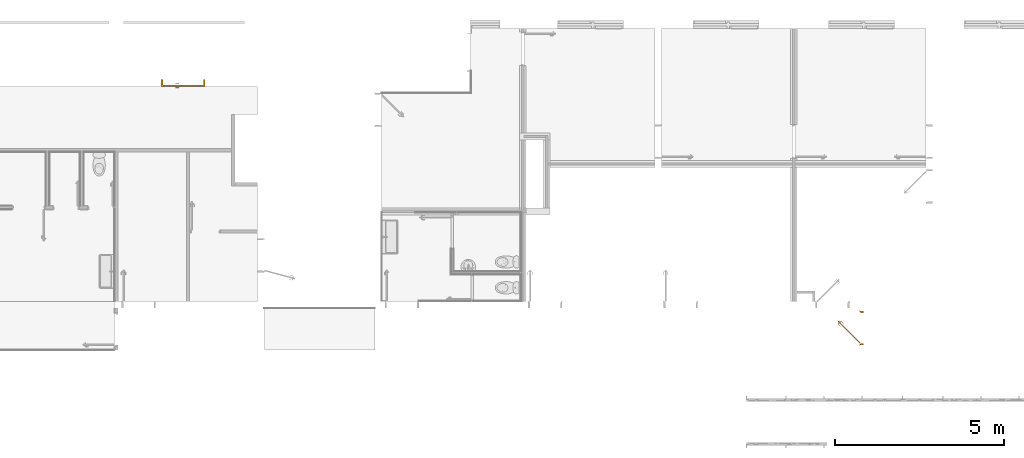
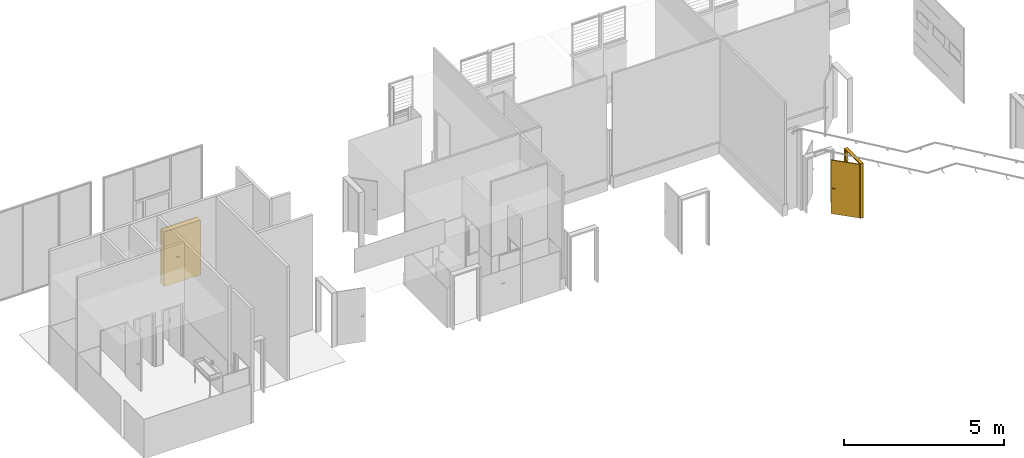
# One storey, part 15 of 18: 2 doors.
"""IFC2X3 building model written with IfcOpenShell, lengths in metres."""

from ifc_helpers import new_model, entity, si_unit, converted_unit, derived_unit, direction, frame, origin, place, context, subcontext, project, spatial, faceted_brep, source, transform, mapped, material, material_list, type_object, type_shapes, element, save


model = new_model("IFC2X3")

# Units and contexts
model_context = context("Model", 3, precision=1e-05, world=origin(), true_north=direction((6.12303176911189e-17, 1.0)))
body_context = subcontext(model_context, "Body", "Model", "MODEL_VIEW")
ifc_project = project(units=[si_unit("LENGTHUNIT", "METRE"), si_unit("AREAUNIT", "SQUARE_METRE"), si_unit("VOLUMEUNIT", "CUBIC_METRE"), converted_unit("PLANEANGLEUNIT", "DEGREE", entity("IfcRatioMeasure", 0.0174532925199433), si_unit("PLANEANGLEUNIT", "RADIAN"), dimensions=[0, 0, 0, 0, 0, 0, 0]), si_unit("MASSUNIT", "GRAM", prefix="KILO"), derived_unit("MASSDENSITYUNIT", [(si_unit("MASSUNIT", "GRAM", prefix="KILO"), 1), (si_unit("LENGTHUNIT", "METRE"), -3)]), si_unit("TIMEUNIT", "SECOND"), si_unit("FREQUENCYUNIT", "HERTZ"), si_unit("THERMODYNAMICTEMPERATUREUNIT", "DEGREE_CELSIUS"), derived_unit("THERMALTRANSMITTANCEUNIT", [(si_unit("MASSUNIT", "GRAM", prefix="KILO"), 1), (si_unit("THERMODYNAMICTEMPERATUREUNIT", "KELVIN"), -1), (si_unit("TIMEUNIT", "SECOND"), -3)]), derived_unit("VOLUMETRICFLOWRATEUNIT", [(si_unit("LENGTHUNIT", "METRE"), 3), (si_unit("TIMEUNIT", "SECOND"), -1)]), si_unit("ELECTRICCURRENTUNIT", "AMPERE"), si_unit("ELECTRICVOLTAGEUNIT", "VOLT"), si_unit("POWERUNIT", "WATT"), si_unit("FORCEUNIT", "NEWTON", prefix="KILO"), si_unit("ILLUMINANCEUNIT", "LUX"), si_unit("LUMINOUSFLUXUNIT", "LUMEN"), si_unit("LUMINOUSINTENSITYUNIT", "CANDELA"), derived_unit("USERDEFINED", [(si_unit("MASSUNIT", "GRAM", prefix="KILO"), -1), (si_unit("LENGTHUNIT", "METRE"), -2), (si_unit("TIMEUNIT", "SECOND"), 3), (si_unit("LUMINOUSFLUXUNIT", "LUMEN"), 1)]), derived_unit("LINEARVELOCITYUNIT", [(si_unit("LENGTHUNIT", "METRE"), 1), (si_unit("TIMEUNIT", "SECOND"), -1)]), si_unit("PRESSUREUNIT", "PASCAL"), derived_unit("USERDEFINED", [(si_unit("LENGTHUNIT", "METRE"), -2), (si_unit("MASSUNIT", "GRAM", prefix="KILO"), 1), (si_unit("TIMEUNIT", "SECOND"), -2)])], contexts=[model_context])

# Site, building, storey
site_placement = place(None, origin())
site = spatial("IfcSite", under=ifc_project, at=site_placement, Name="Surface", CompositionType="ELEMENT")
building_placement = place(site_placement, origin())
building = spatial("IfcBuilding", under=site, at=building_placement, Name="ExPREF", CompositionType="ELEMENT")
storey_placement = place(building_placement, frame((0.0, 0.0, -4.62)))
storey = spatial("IfcBuildingStorey", under=building, at=storey_placement, Name="R-1", CompositionType="ELEMENT", Elevation=-4.62)

# Doors
ifc_material_1 = material(Name="Finition Peinture - Blanc satiné")
ifc_material_2 = material(Name="AA-Aluminium")
ifc_material_list_1 = material_list([ifc_material_1, ifc_material_2])
ifc_material_list_2 = material_list([ifc_material_1, ifc_material_2])
door_style_1 = type_object("IfcDoorStyle", Name="PP (1.23m x 2.04m) métal", ConstructionType="NOTDEFINED", OperationType="DOUBLE_DOOR_SINGLE_SWING", ParameterTakesPrecedence=False, Sizeable=False, material=ifc_material_list_2)
shared_shape_1 = source(origin(), body_context, "Body", "Brep", [
    faceted_brep([(0.505352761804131, -0.00500000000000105, 0.866003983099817), (0.51500000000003, -0.00500000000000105, 0.870000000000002), (0.515000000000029, -0.00500000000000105, 1.08), (0.505352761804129, -0.00500000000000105, 1.08399601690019), (0.495000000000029, -0.00500000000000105, 1.08535898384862), (0.484647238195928, -0.00500000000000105, 1.08399601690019), (0.475000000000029, -0.00500000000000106, 1.08), (0.47500000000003, -0.00500000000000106, 0.870000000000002), (0.484647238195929, -0.00500000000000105, 0.866003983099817), (0.49500000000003, -0.00500000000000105, 0.86464101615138), (0.505352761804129, 0.0, 1.08399601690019), (0.515000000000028, 0.0, 1.08), (0.51500000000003, 0.0, 0.870000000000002), (0.505352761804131, 0.0, 0.866003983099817), (0.49500000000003, 0.0, 0.86464101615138), (0.484647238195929, 0.0, 0.866003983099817), (0.475000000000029, 0.0, 0.870000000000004), (0.475000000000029, 0.0, 1.08), (0.484647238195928, 0.0, 1.08399601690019), (0.495000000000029, 0.0, 1.08535898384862)], [[[0, 1, 2, 3, 4, 5, 6, 7, 8, 9]], [[10, 11, 12, 13, 14, 15, 16, 17, 18, 19]], [[16, 15, 8, 7]], [[8, 15, 14, 9]], [[14, 13, 0, 9]], [[13, 12, 1, 0]], [[2, 1, 12, 11]], [[11, 10, 3, 2]], [[3, 10, 19, 4]], [[19, 18, 5, 4]], [[18, 17, 6, 5]], [[7, 6, 17, 16]]]),
    faceted_brep([(0.505352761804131, 0.0399999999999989, 0.866003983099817), (0.51500000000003, 0.0399999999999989, 0.870000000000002), (0.515000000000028, 0.0399999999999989, 1.08), (0.505352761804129, 0.0399999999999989, 1.08399601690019), (0.495000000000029, 0.0399999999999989, 1.08535898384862), (0.484647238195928, 0.0399999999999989, 1.08399601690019), (0.475000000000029, 0.0399999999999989, 1.08), (0.47500000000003, 0.0399999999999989, 0.870000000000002), (0.484647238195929, 0.0399999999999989, 0.866003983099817), (0.49500000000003, 0.0399999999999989, 0.86464101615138), (0.505352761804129, 0.0449999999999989, 1.08399601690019), (0.515000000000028, 0.0449999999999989, 1.08), (0.51500000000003, 0.0449999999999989, 0.870000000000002), (0.505352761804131, 0.0449999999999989, 0.866003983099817), (0.49500000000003, 0.0449999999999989, 0.86464101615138), (0.484647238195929, 0.0449999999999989, 0.866003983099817), (0.475000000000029, 0.0449999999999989, 0.870000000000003), (0.475000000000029, 0.0449999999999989, 1.08), (0.484647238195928, 0.0449999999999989, 1.08399601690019), (0.495000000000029, 0.0449999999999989, 1.08535898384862)], [[[0, 1, 2, 3, 4, 5, 6, 7, 8, 9]], [[10, 11, 12, 13, 14, 15, 16, 17, 18, 19]], [[11, 10, 3, 2]], [[3, 10, 19, 4]], [[19, 18, 5, 4]], [[18, 17, 6, 5]], [[7, 6, 17, 16]], [[16, 15, 8, 7]], [[8, 15, 14, 9]], [[14, 13, 0, 9]], [[13, 12, 1, 0]], [[2, 1, 12, 11]]]),
    faceted_brep([(0.492974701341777, -0.00500000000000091, 1.00778044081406), (0.497025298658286, -0.00500000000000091, 1.00778044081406), (0.501000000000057, -0.00500000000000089, 1.00699999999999), (0.501000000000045, -0.00500000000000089, 0.993000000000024), (0.497025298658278, -0.00500000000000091, 0.992219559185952), (0.492974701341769, -0.00500000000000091, 0.99221955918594), (0.489000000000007, -0.00500000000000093, 0.992999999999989), (0.489000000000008, -0.00500000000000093, 1.007), (0.489000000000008, -0.0326509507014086, 1.007), (0.492974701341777, -0.0310045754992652, 1.00778044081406), (0.50902358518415, -0.0470534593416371, 1.00778044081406), (0.51070139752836, -0.0430028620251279, 1.00778044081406), (0.497025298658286, -0.0293267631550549, 1.00778044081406), (0.501000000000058, -0.0276803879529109, 1.007), (0.501000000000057, -0.0276803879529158, 0.993000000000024), (0.497025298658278, -0.0293267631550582, 0.992219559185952), (0.510701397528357, -0.0430028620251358, 0.992219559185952), (0.509023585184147, -0.0470534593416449, 0.99221955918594), (0.492974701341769, -0.0310045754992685, 0.99221955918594), (0.489000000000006, -0.0326509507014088, 0.992999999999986), (0.507377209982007, -0.0510281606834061, 1.007), (0.512347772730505, -0.0390281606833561, 1.007), (0.512347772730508, -0.0390281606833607, 0.993000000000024), (0.507377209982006, -0.0510281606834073, 0.992999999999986), (0.595018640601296, -0.051028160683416, 0.992999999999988), (0.595018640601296, -0.0470534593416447, 0.99221955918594), (0.595018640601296, -0.0430028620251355, 0.992219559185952), (0.595018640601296, -0.0390281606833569, 0.993000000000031), (0.595018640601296, -0.0390281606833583, 1.007), (0.595018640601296, -0.0430028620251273, 1.00778044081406), (0.595018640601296, -0.0470534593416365, 1.00778044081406), (0.595018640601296, -0.0510281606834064, 1.00699999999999), (0.547307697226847, -0.0510281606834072, 1.007), (0.552860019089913, -0.045028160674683, 1.0078786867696), (0.5536832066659, -0.039028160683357, 1.007), (0.553683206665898, -0.0390281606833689, 0.993000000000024), (0.552860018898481, -0.0450281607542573, 0.992121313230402), (0.547307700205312, -0.0510281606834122, 0.992999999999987)], [[[0, 1, 2, 3, 4, 5, 6, 7]], [[8, 9, 0, 7]], [[9, 10, 11, 12, 1, 0]], [[12, 13, 2, 1]], [[3, 2, 13, 14]], [[14, 15, 4, 3]], [[15, 16, 17, 18, 5, 4]], [[18, 19, 6, 5]], [[7, 6, 19, 8]], [[20, 10, 9, 8]], [[11, 21, 13, 12]], [[14, 13, 21, 22]], [[22, 16, 15, 14]], [[17, 23, 19, 18]], [[8, 19, 23, 20]], [[24, 25, 26, 27, 28, 29, 30, 31]], [[32, 30, 33]], [[31, 30, 32]], [[10, 20, 32]], [[33, 34, 11]], [[21, 11, 34]], [[34, 29, 28]], [[30, 29, 33]], [[29, 34, 33]], [[10, 32, 33]], [[10, 33, 11]], [[22, 21, 34, 28, 27, 35]], [[35, 26, 36]], [[37, 36, 25]], [[22, 35, 16]], [[35, 27, 26]], [[24, 37, 25]], [[23, 17, 37]], [[37, 17, 36]], [[17, 16, 36]], [[16, 35, 36]], [[25, 36, 26]], [[20, 23, 37, 24, 31, 32]]]),
    faceted_brep([(0.49297470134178, 0.0449999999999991, 1.00778044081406), (0.48900000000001, 0.044999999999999, 1.007), (0.489, 0.044999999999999, 0.992999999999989), (0.492974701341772, 0.0449999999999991, 0.99221955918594), (0.497025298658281, 0.0449999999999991, 0.992219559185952), (0.50100000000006, 0.0449999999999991, 0.993000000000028), (0.501000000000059, 0.0449999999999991, 1.007), (0.49702529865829, 0.0449999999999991, 1.00778044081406), (0.50100000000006, 0.067485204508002, 0.993000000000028), (0.50100000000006, 0.0674852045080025, 1.007), (0.49702529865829, 0.0691315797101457, 1.00778044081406), (0.510838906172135, 0.0829451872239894, 1.00778044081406), (0.509161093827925, 0.0869957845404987, 1.00778044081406), (0.492974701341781, 0.070809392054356, 1.00778044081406), (0.48900000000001, 0.0724557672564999, 1.007), (0.48900000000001, 0.072455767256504, 0.992999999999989), (0.492974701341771, 0.0708093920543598, 0.99221955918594), (0.509161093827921, 0.0869957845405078, 0.99221955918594), (0.510838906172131, 0.0829451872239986, 0.992219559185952), (0.497025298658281, 0.0691315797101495, 0.992219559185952), (0.512485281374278, 0.0789704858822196, 0.993000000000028), (0.512485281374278, 0.0789704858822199, 1.007), (0.507514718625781, 0.0909704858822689, 1.007), (0.507514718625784, 0.090970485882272, 0.992999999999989), (0.595045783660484, 0.0789704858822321, 0.993000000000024), (0.595045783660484, 0.0829451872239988, 0.992219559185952), (0.595045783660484, 0.086995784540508, 0.99221955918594), (0.595045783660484, 0.0909704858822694, 0.992999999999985), (0.595045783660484, 0.0909704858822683, 1.007), (0.595045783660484, 0.0869957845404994, 1.00778044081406), (0.595045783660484, 0.0829451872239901, 1.00778044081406), (0.595045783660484, 0.0789704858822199, 1.007), (0.553765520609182, 0.0789704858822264, 0.993000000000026), (0.553765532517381, 0.0789704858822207, 1.007), (0.552942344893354, 0.0849704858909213, 1.0078786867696), (0.547445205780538, 0.0909704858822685, 1.007), (0.547445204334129, 0.0909704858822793, 0.992999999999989), (0.552942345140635, 0.0849704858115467, 0.992121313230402)], [[[0, 1, 2, 3, 4, 5, 6, 7]], [[6, 5, 8, 9]], [[9, 10, 7, 6]], [[10, 11, 12, 13, 0, 7]], [[13, 14, 1, 0]], [[2, 1, 14, 15]], [[15, 16, 3, 2]], [[16, 17, 18, 19, 4, 3]], [[19, 8, 5, 4]], [[9, 8, 20, 21]], [[21, 11, 10, 9]], [[12, 22, 14, 13]], [[15, 14, 22, 23]], [[23, 17, 16, 15]], [[18, 20, 8, 19]], [[24, 25, 26, 27, 28, 29, 30, 31]], [[21, 20, 32, 24, 31, 33]], [[33, 30, 34]], [[35, 34, 29]], [[21, 33, 11]], [[33, 31, 30]], [[28, 35, 29]], [[22, 12, 35]], [[35, 12, 34]], [[12, 11, 34]], [[11, 33, 34]], [[29, 34, 30]], [[22, 35, 28, 27, 36, 23]], [[36, 26, 37]], [[27, 26, 36]], [[17, 23, 36]], [[37, 32, 18]], [[20, 18, 32]], [[32, 25, 24]], [[26, 25, 37]], [[25, 32, 37]], [[17, 36, 37]], [[17, 37, 18]]]),
    faceted_brep([(0.435000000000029, 0.04, 2.04), (1.33500000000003, 0.04, 2.04), (1.33500000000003, 0.04, 0.0), (0.435000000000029, 0.04, 0.0), (0.435000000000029, 0.0, 2.04), (0.435000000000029, 0.0, 0.0), (1.33500000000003, 0.0, 0.0), (1.33500000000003, 0.0, 2.04)], [[[0, 1, 2, 3]], [[4, 5, 6, 7]], [[1, 0, 4, 7]], [[2, 1, 7, 6]], [[3, 2, 6, 5]], [[0, 3, 5, 4]]]),
    faceted_brep([(1.37000000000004, 0.0, 0.0), (1.33500000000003, 0.0, 0.0), (1.33500000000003, 0.040000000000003, 0.0), (1.32000000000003, 0.040000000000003, 0.0), (1.32000000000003, 0.200000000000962, 0.0), (1.37000000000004, 0.200000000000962, 0.0), (1.37000000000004, 0.200000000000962, 2.07500000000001), (1.37000000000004, 0.0, 2.07500000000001), (1.32000000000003, 0.200000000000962, 2.02499999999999), (0.120000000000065, 0.200000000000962, 2.02499999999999), (0.120000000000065, 0.200000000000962, 0.0), (0.0700000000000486, 0.200000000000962, 0.0), (0.0700000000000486, 0.200000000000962, 2.07500000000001), (1.32000000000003, 0.040000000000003, 2.02499999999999), (1.33500000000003, 0.040000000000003, 2.04), (0.105000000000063, 0.040000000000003, 2.04), (0.105000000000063, 0.040000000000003, 0.0), (0.120000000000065, 0.040000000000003, 0.0), (0.120000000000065, 0.040000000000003, 2.02499999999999), (1.33500000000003, 0.0, 2.04), (0.0700000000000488, 0.0, 2.07500000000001), (0.0700000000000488, 0.0, 0.0), (0.105000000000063, 0.0, 0.0), (0.105000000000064, 0.0, 2.04)], [[[0, 1, 2, 3, 4, 5]], [[5, 6, 7, 0]], [[4, 8, 9, 10, 11, 12, 6, 5]], [[3, 13, 8, 4]], [[2, 14, 15, 16, 17, 18, 13, 3]], [[1, 19, 14, 2]], [[0, 7, 20, 21, 22, 23, 19, 1]], [[12, 11, 21, 20]], [[21, 11, 10, 17, 16, 22]], [[18, 17, 10, 9]], [[23, 22, 16, 15]], [[6, 12, 20, 7]], [[13, 18, 9, 8]], [[19, 23, 15, 14]]]),
    faceted_brep([(0.10500000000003, 0.0, 2.04), (0.435000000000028, 0.0, 2.04), (0.435000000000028, 0.0400000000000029, 2.04), (0.10500000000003, 0.0400000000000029, 2.04), (0.10500000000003, 0.0, 0.0), (0.10500000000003, 0.0400000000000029, 0.0), (0.435000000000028, 0.0400000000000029, 0.0), (0.435000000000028, 0.0, 0.0)], [[[0, 1, 2, 3]], [[4, 5, 6, 7]], [[3, 5, 4, 0]], [[2, 6, 5, 3]], [[1, 7, 6, 2]], [[0, 4, 7, 1]]]),
    faceted_brep([(1.35500000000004, 0.200000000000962, 0.0), (1.35500000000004, 0.205000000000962, 0.0), (1.38500000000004, 0.205000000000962, 0.0), (1.38500000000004, 0.200000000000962, 0.0), (1.38500000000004, 0.200000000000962, 2.09000000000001), (0.0550000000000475, 0.200000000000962, 2.09000000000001), (0.0550000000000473, 0.200000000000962, 0.0), (0.0850000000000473, 0.200000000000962, 0.0), (0.0850000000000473, 0.200000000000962, 2.06000000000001), (1.35500000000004, 0.200000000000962, 2.06000000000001), (1.38500000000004, 0.205000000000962, 2.09000000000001), (1.35500000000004, 0.205000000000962, 2.06000000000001), (0.0850000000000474, 0.205000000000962, 2.06000000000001), (0.0850000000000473, 0.205000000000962, 0.0), (0.0550000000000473, 0.205000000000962, 0.0), (0.0550000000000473, 0.205000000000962, 2.09000000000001)], [[[0, 1, 2, 3]], [[3, 4, 5, 6, 7, 8, 9, 0]], [[2, 10, 4, 3]], [[1, 11, 12, 13, 14, 15, 10, 2]], [[0, 9, 11, 1]], [[7, 6, 14, 13]], [[8, 7, 13, 12]], [[15, 14, 6, 5]], [[10, 15, 5, 4]], [[9, 8, 12, 11]]]),
    faceted_brep([(1.38500000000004, -0.00500000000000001, 0.0), (1.38500000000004, -0.00500000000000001, 2.09000000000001), (0.0550000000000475, -0.00500000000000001, 2.09000000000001), (0.0550000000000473, -0.00500000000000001, 0.0), (0.0850000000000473, -0.00500000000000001, 0.0), (0.0850000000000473, -0.00500000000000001, 2.06000000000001), (1.35500000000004, -0.00500000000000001, 2.06000000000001), (1.35500000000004, -0.00500000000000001, 0.0), (1.38500000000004, 0.0, 0.0), (1.38500000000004, 0.0, 2.09000000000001), (1.35500000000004, 0.0, 0.0), (1.35500000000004, 0.0, 2.06000000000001), (0.0850000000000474, 0.0, 2.06000000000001), (0.0850000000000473, 0.0, 0.0), (0.0550000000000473, 0.0, 0.0), (0.0550000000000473, 0.0, 2.09000000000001)], [[[0, 1, 2, 3, 4, 5, 6, 7]], [[8, 9, 1, 0]], [[10, 11, 12, 13, 14, 15, 9, 8]], [[7, 6, 11, 10]], [[5, 4, 13, 12]], [[15, 14, 3, 2]], [[9, 15, 2, 1]], [[6, 5, 12, 11]], [[4, 3, 14, 13]], [[7, 10, 8, 0]]]),
])
type_shapes(door_style_1, [shared_shape_1])
door_1_placement = place(storey_placement, frame((38.7412326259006, -186.914488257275, 0.0)))
element("IfcDoor", 1, at=door_1_placement, inside=storey, type_object=door_style_1, material=ifc_material_list_1, Name="Int. Tierce:PP (1.23m x 2.04m) métal", ObjectType="PP (1.23m x 2.04m) métal", OverallHeight=2.09000000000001, OverallWidth=1.33, context=body_context, shape_type="MappedRepresentation", body=[
    mapped(shared_shape_1, transform((0.0, 0.0, 0.0), scale=1.0)),
])
ifc_material_3 = material(Name="AA-Blanc satiné")
ifc_material_list_3 = material_list([ifc_material_3, ifc_material_2])
ifc_material_list_4 = material_list([ifc_material_3, ifc_material_2])
door_style_2 = type_object("IfcDoorStyle", Name="PP (0.93m x 2.04m) métal", ConstructionType="NOTDEFINED", OperationType="SINGLE_SWING_LEFT", ParameterTakesPrecedence=False, Sizeable=False, material=ifc_material_list_4)
shared_shape_2 = source(origin(), body_context, "Body", "Brep", [
    faceted_brep([(0.316565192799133, -0.584795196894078, 1.00778044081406), (0.313754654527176, -0.587605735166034, 1.007), (0.313754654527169, -0.587605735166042, 0.992999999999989), (0.316565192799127, -0.584795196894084, 0.99221955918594), (0.319429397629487, -0.581930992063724, 0.992219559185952), (0.32223993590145, -0.579120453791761, 0.993000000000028), (0.322239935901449, -0.579120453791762, 1.007), (0.319429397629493, -0.581930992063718, 1.00778044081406), (0.306340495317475, -0.563221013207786, 0.993000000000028), (0.306340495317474, -0.563221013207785, 1.007), (0.302365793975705, -0.564867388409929, 1.00778044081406), (0.302365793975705, -0.545331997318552, 1.00778044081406), (0.298315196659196, -0.543654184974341, 1.00778044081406), (0.298315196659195, -0.566545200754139, 1.00778044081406), (0.294340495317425, -0.568191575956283, 1.007), (0.294340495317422, -0.56819157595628, 0.992999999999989), (0.298315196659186, -0.566545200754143, 0.99221955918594), (0.298315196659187, -0.543654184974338, 0.99221955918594), (0.302365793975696, -0.545331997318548, 0.992219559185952), (0.302365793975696, -0.564867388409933, 0.992219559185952), (0.306340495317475, -0.546978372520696, 0.993000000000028), (0.306340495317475, -0.546978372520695, 1.007), (0.294340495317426, -0.542007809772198, 1.007), (0.294340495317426, -0.542007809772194, 0.992999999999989), (0.36471958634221, -0.488599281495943, 0.993000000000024), (0.361909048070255, -0.485788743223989, 0.992219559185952), (0.359044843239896, -0.482924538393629, 0.99221955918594), (0.356234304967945, -0.480114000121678, 0.992999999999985), (0.356234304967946, -0.480114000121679, 1.007), (0.359044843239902, -0.482924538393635, 1.00778044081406), (0.361909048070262, -0.485788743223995, 1.00778044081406), (0.364719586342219, -0.488599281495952, 1.007), (0.335530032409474, -0.517788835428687, 0.993000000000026), (0.335530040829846, -0.517788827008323, 1.007), (0.330705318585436, -0.51412826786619, 1.0078786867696), (0.322575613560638, -0.513772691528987, 1.007), (0.322575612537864, -0.513772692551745, 0.992999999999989), (0.330705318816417, -0.514128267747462, 0.992121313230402)], [[[0, 1, 2, 3, 4, 5, 6, 7]], [[6, 5, 8, 9]], [[9, 10, 7, 6]], [[10, 11, 12, 13, 0, 7]], [[13, 14, 1, 0]], [[2, 1, 14, 15]], [[15, 16, 3, 2]], [[16, 17, 18, 19, 4, 3]], [[19, 8, 5, 4]], [[9, 8, 20, 21]], [[21, 11, 10, 9]], [[12, 22, 14, 13]], [[15, 14, 22, 23]], [[23, 17, 16, 15]], [[18, 20, 8, 19]], [[24, 25, 26, 27, 28, 29, 30, 31]], [[21, 20, 32, 24, 31, 33]], [[33, 30, 34]], [[35, 34, 29]], [[21, 33, 11]], [[33, 31, 30]], [[28, 35, 29]], [[22, 12, 35]], [[35, 12, 34]], [[12, 11, 34]], [[11, 33, 34]], [[29, 34, 30]], [[22, 35, 28, 27, 36, 23]], [[36, 26, 37]], [[27, 26, 36]], [[17, 23, 36]], [[37, 32, 18]], [[20, 18, 32]], [[32, 25, 24]], [[26, 25, 37]], [[25, 32, 37]], [[17, 36, 37]], [[17, 37, 18]]]),
    faceted_brep([(0.351920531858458, -0.620150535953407, 1.00778044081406), (0.354784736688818, -0.617286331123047, 1.00778044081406), (0.357595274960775, -0.61447579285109, 1.00699999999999), (0.357595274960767, -0.614475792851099, 0.993000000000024), (0.354784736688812, -0.617286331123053, 0.992219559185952), (0.351920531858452, -0.620150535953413, 0.99221955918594), (0.349109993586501, -0.622961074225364, 0.992999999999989), (0.349109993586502, -0.622961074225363, 1.007), (0.368662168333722, -0.642513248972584, 1.007), (0.370308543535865, -0.638538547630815, 1.00778044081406), (0.393005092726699, -0.638538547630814, 1.00778044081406), (0.391327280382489, -0.634487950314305, 1.00778044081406), (0.371986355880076, -0.634487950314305, 1.00778044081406), (0.373632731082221, -0.630513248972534, 1.007), (0.373632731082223, -0.630513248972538, 0.993000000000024), (0.371986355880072, -0.634487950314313, 0.992219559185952), (0.391327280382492, -0.634487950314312, 0.992219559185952), (0.393005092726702, -0.638538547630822, 0.99221955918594), (0.370308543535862, -0.638538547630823, 0.99221955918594), (0.368662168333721, -0.642513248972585, 0.992999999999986), (0.394651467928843, -0.642513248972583, 1.007), (0.389680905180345, -0.630513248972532, 1.007), (0.38968090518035, -0.630513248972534, 0.993000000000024), (0.394651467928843, -0.642513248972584, 0.992999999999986), (0.456623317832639, -0.5805413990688, 0.992999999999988), (0.453812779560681, -0.577730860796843, 0.99221955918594), (0.450948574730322, -0.574866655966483, 0.992219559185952), (0.448138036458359, -0.57205611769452, 0.993000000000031), (0.44813803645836, -0.572056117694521, 1.007), (0.450948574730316, -0.574866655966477, 1.00778044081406), (0.453812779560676, -0.577730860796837, 1.00778044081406), (0.456623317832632, -0.580541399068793, 1.00699999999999), (0.422886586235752, -0.614278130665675, 1.007), (0.422570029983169, -0.606109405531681, 1.0078786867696), (0.418909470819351, -0.601284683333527, 1.007), (0.418909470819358, -0.601284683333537, 0.993000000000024), (0.422570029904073, -0.606109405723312, 0.992121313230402), (0.422886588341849, -0.614278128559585, 0.992999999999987)], [[[0, 1, 2, 3, 4, 5, 6, 7]], [[8, 9, 0, 7]], [[9, 10, 11, 12, 1, 0]], [[12, 13, 2, 1]], [[3, 2, 13, 14]], [[14, 15, 4, 3]], [[15, 16, 17, 18, 5, 4]], [[18, 19, 6, 5]], [[7, 6, 19, 8]], [[20, 10, 9, 8]], [[11, 21, 13, 12]], [[14, 13, 21, 22]], [[22, 16, 15, 14]], [[17, 23, 19, 18]], [[8, 19, 23, 20]], [[24, 25, 26, 27, 28, 29, 30, 31]], [[32, 30, 33]], [[31, 30, 32]], [[10, 20, 32]], [[33, 34, 11]], [[21, 11, 34]], [[34, 29, 28]], [[30, 29, 33]], [[29, 34, 33]], [[10, 32, 33]], [[10, 33, 11]], [[22, 21, 34, 28, 27, 35]], [[35, 26, 36]], [[37, 36, 25]], [[22, 35, 16]], [[35, 27, 26]], [[24, 37, 25]], [[23, 17, 37]], [[37, 17, 36]], [[17, 16, 36]], [[16, 35, 36]], [[25, 36, 26]], [[20, 23, 37, 24, 31, 32]]]),
    faceted_brep([(0.328853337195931, -0.579578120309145, 0.866003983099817), (0.335674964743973, -0.572756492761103, 0.870000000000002), (0.335674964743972, -0.572756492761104, 1.08), (0.32885333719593, -0.579578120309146, 1.08399601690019), (0.321532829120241, -0.586898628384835, 1.08535898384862), (0.314212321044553, -0.594219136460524, 1.08399601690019), (0.307390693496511, -0.601040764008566, 1.08), (0.307390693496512, -0.601040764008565, 0.870000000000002), (0.314212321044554, -0.594219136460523, 0.866003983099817), (0.321532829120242, -0.586898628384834, 0.86464101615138), (0.325317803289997, -0.576042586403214, 1.08399601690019), (0.332139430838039, -0.569220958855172, 1.08), (0.33213943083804, -0.569220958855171, 0.870000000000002), (0.325317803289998, -0.576042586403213, 0.866003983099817), (0.31799729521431, -0.583363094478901, 0.86464101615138), (0.310676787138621, -0.59068360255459, 0.866003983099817), (0.303855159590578, -0.597505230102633, 0.870000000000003), (0.303855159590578, -0.597505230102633, 1.08), (0.31067678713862, -0.590683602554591, 1.08399601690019), (0.317997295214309, -0.583363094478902, 1.08535898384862)], [[[0, 1, 2, 3, 4, 5, 6, 7, 8, 9]], [[10, 11, 12, 13, 14, 15, 16, 17, 18, 19]], [[11, 10, 3, 2]], [[3, 10, 19, 4]], [[19, 18, 5, 4]], [[18, 17, 6, 5]], [[7, 6, 17, 16]], [[16, 15, 8, 7]], [[8, 15, 14, 9]], [[14, 13, 0, 9]], [[13, 12, 1, 0]], [[2, 1, 12, 11]]]),
    faceted_brep([(0.360673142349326, -0.61139792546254, 0.866003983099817), (0.367494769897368, -0.604576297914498, 0.870000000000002), (0.367494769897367, -0.604576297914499, 1.08), (0.360673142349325, -0.611397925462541, 1.08399601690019), (0.353352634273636, -0.61871843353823, 1.08535898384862), (0.346032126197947, -0.626038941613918, 1.08399601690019), (0.339210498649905, -0.63286056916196, 1.08), (0.339210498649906, -0.632860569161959, 0.870000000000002), (0.346032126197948, -0.626038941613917, 0.866003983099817), (0.353352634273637, -0.618718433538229, 0.86464101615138), (0.357137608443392, -0.607862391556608, 1.08399601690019), (0.363959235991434, -0.601040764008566, 1.08), (0.363959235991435, -0.601040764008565, 0.870000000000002), (0.357137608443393, -0.607862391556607, 0.866003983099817), (0.349817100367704, -0.615182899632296, 0.86464101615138), (0.342496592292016, -0.622503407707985, 0.866003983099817), (0.335674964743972, -0.629325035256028, 0.870000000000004), (0.335674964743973, -0.629325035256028, 1.08), (0.342496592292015, -0.622503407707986, 1.08399601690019), (0.349817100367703, -0.615182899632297, 1.08535898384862)], [[[0, 1, 2, 3, 4, 5, 6, 7, 8, 9]], [[10, 11, 12, 13, 14, 15, 16, 17, 18, 19]], [[16, 15, 8, 7]], [[8, 15, 14, 9]], [[14, 13, 0, 9]], [[13, 12, 1, 0]], [[2, 1, 12, 11]], [[11, 10, 3, 2]], [[3, 10, 19, 4]], [[19, 18, 5, 4]], [[18, 17, 6, 5]], [[7, 6, 17, 16]]]),
    faceted_brep([(0.279106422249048, -0.629325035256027, 2.04), (0.936715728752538, 0.0282842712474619, 2.04), (0.936715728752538, 0.0282842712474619, 0.0), (0.279106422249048, -0.629325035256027, 0.0), (0.30739069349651, -0.657609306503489, 2.04), (0.30739069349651, -0.657609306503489, 0.0), (0.965, 0.0, 0.0), (0.965, 0.0, 2.04)], [[[0, 1, 2, 3]], [[4, 5, 6, 7]], [[1, 0, 4, 7]], [[2, 1, 7, 6]], [[3, 2, 6, 5]], [[0, 3, 5, 4]]]),
    faceted_brep([(0.0, 0.0, 0.0), (0.0, 0.100000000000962, 0.0), (0.0499999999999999, 0.100000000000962, 0.0), (0.0499999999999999, 0.040000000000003, 0.0), (0.0349999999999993, 0.040000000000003, 0.0), (0.0349999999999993, 0.0, 0.0), (0.0, 0.0, 2.07500000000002), (0.0, 0.100000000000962, 2.07500000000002), (1.0, 0.100000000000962, 2.07500000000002), (1.0, 0.100000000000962, 0.0), (0.95, 0.100000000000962, 0.0), (0.95, 0.100000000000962, 2.025), (0.0500000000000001, 0.100000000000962, 2.025), (0.05, 0.040000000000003, 2.025), (0.95, 0.040000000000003, 2.025), (0.95, 0.040000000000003, 0.0), (0.965, 0.040000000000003, 0.0), (0.965, 0.040000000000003, 2.04), (0.0349999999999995, 0.040000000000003, 2.04), (0.0349999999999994, 0.0, 2.04), (0.965, 0.0, 2.04), (0.965, 0.0, 0.0), (1.0, 0.0, 0.0), (1.0, 0.0, 2.07500000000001)], [[[0, 1, 2, 3, 4, 5]], [[1, 0, 6, 7]], [[2, 1, 7, 8, 9, 10, 11, 12]], [[3, 2, 12, 13]], [[4, 3, 13, 14, 15, 16, 17, 18]], [[5, 4, 18, 19]], [[0, 5, 19, 20, 21, 22, 23, 6]], [[8, 23, 22, 9]], [[22, 21, 16, 15, 10, 9]], [[14, 11, 10, 15]], [[20, 17, 16, 21]], [[7, 6, 23, 8]], [[13, 12, 11, 14]], [[19, 18, 17, 20]]]),
    faceted_brep([(0.0149999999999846, 0.100000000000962, 0.0), (-0.0150000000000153, 0.100000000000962, 0.0), (-0.0150000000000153, 0.105000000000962, 0.0), (0.0149999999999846, 0.105000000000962, 0.0), (0.0149999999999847, 0.100000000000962, 2.06000000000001), (0.98499999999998, 0.100000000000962, 2.06000000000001), (0.98499999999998, 0.100000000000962, 0.0), (1.01499999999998, 0.100000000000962, 0.0), (1.01499999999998, 0.100000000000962, 2.09000000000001), (-0.0150000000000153, 0.100000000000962, 2.09000000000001), (-0.0150000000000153, 0.105000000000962, 2.09000000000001), (1.01499999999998, 0.105000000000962, 2.09000000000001), (1.01499999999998, 0.105000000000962, 0.0), (0.98499999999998, 0.105000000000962, 0.0), (0.98499999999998, 0.105000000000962, 2.06000000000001), (0.0149999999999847, 0.105000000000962, 2.06000000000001)], [[[0, 1, 2, 3]], [[1, 0, 4, 5, 6, 7, 8, 9]], [[2, 1, 9, 10]], [[3, 2, 10, 11, 12, 13, 14, 15]], [[0, 3, 15, 4]], [[6, 13, 12, 7]], [[5, 14, 13, 6]], [[11, 8, 7, 12]], [[10, 9, 8, 11]], [[4, 15, 14, 5]]]),
    faceted_brep([(-0.0150000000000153, -0.005, 0.0), (0.0149999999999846, -0.005, 0.0), (0.0149999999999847, -0.005, 2.06000000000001), (0.98499999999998, -0.005, 2.06000000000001), (0.98499999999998, -0.005, 0.0), (1.01499999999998, -0.005, 0.0), (1.01499999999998, -0.005, 2.09000000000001), (-0.0150000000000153, -0.005, 2.09000000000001), (-0.0150000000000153, 0.0, 0.0), (-0.0150000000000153, 0.0, 2.09000000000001), (0.0149999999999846, 0.0, 0.0), (1.01499999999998, 0.0, 2.09000000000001), (1.01499999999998, 0.0, 0.0), (0.98499999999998, 0.0, 0.0), (0.98499999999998, 0.0, 2.06000000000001), (0.0149999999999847, 0.0, 2.06000000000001)], [[[0, 1, 2, 3, 4, 5, 6, 7]], [[8, 0, 7, 9]], [[10, 8, 9, 11, 12, 13, 14, 15]], [[1, 10, 15, 2]], [[3, 14, 13, 4]], [[11, 6, 5, 12]], [[9, 7, 6, 11]], [[2, 15, 14, 3]], [[4, 13, 12, 5]], [[1, 0, 8, 10]]]),
])
type_shapes(door_style_2, [shared_shape_2])
door_2_placement = place(storey_placement, frame((59.4397436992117, -193.551320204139, 0.0), z_axis=(0.0, 0.0, 1.0), x_axis=(0.0, -1.0, 0.0)))
element("IfcDoor", 2, at=door_2_placement, inside=storey, type_object=door_style_2, material=ifc_material_list_3, Name="Int. Simple:PP (0.93m x 2.04m) métal", ObjectType="PP (0.93m x 2.04m) métal", OverallHeight=2.09000000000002, OverallWidth=1.03, context=body_context, shape_type="MappedRepresentation", body=[
    mapped(shared_shape_2, transform((0.0, 0.0, 0.0), scale=1.0)),
])

save(model, "model.ifc")
